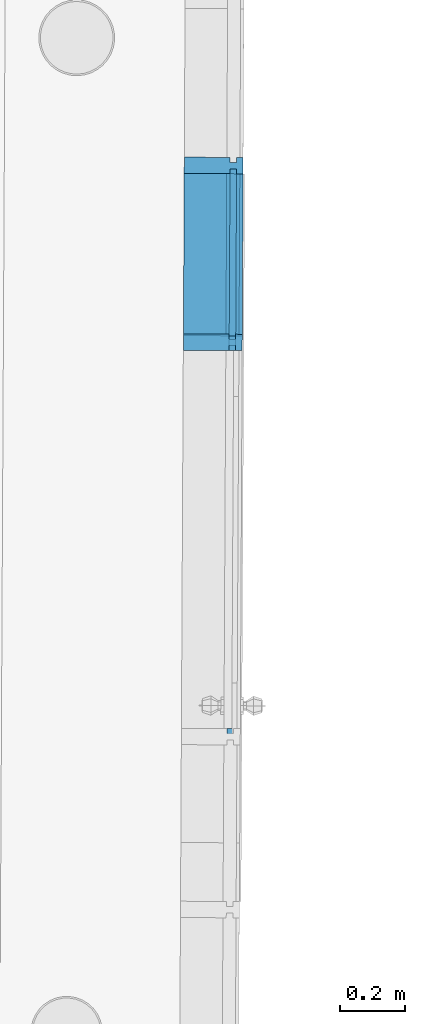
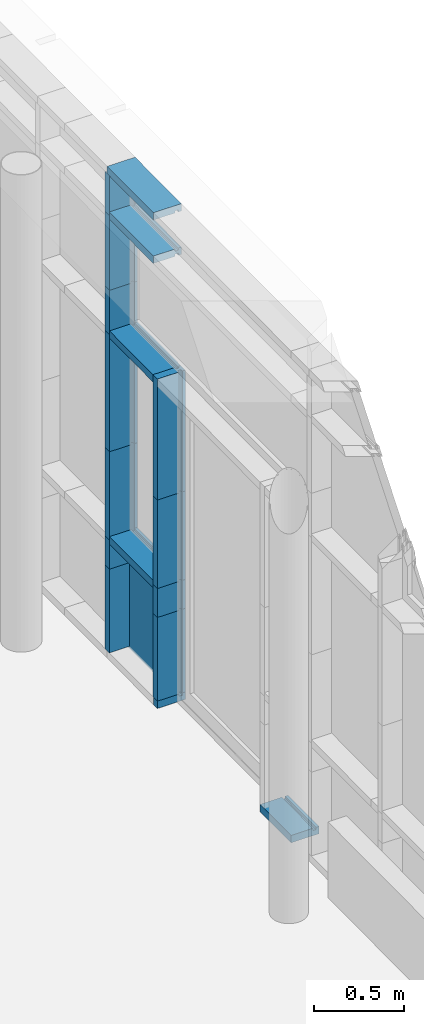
# One storey, part 182 of 196: 18 building element parts, 1 element without a shape of its own.
"""IFC2X3 building model written with IfcOpenShell, lengths in metres."""

from ifc_helpers import new_model, entity, si_unit, converted_unit, derived_unit, money_unit, direction, frame, origin_with_axes, place, context, subcontext, project, spatial, faceted_brep, material, type_object, element, aggregate, save


model = new_model("IFC2X3")

# Units and contexts
model_context = context("Model", 3, precision=1e-05, world=origin_with_axes(), true_north=direction((0.0, 1.0)))
body_context = subcontext(model_context, "Body", "Model", "MODEL_VIEW")
ifc_project = project(units=[si_unit("LENGTHUNIT", "METRE"), si_unit("AREAUNIT", "SQUARE_METRE"), si_unit("VOLUMEUNIT", "CUBIC_METRE"), converted_unit("PLANEANGLEUNIT", "DEGREE", entity("IfcPlaneAngleMeasure", 0.0174532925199), si_unit("PLANEANGLEUNIT", "RADIAN"), dimensions=[0, 0, 0, 0, 0, 0, 0]), money_unit("EUR"), converted_unit("TIMEUNIT", "Year", entity("IfcTimeMeasure", 31556926.0), si_unit("TIMEUNIT", "SECOND"), dimensions=[0, 0, 1, 0, 0, 0, 0]), si_unit("MASSUNIT", "GRAM", prefix="KILO"), si_unit("THERMODYNAMICTEMPERATUREUNIT", "DEGREE_CELSIUS"), si_unit("LUMINOUSINTENSITYUNIT", "LUMEN"), si_unit("ENERGYUNIT", "JOULE", prefix="MEGA"), derived_unit("THERMALCONDUCTANCEUNIT", [(si_unit("POWERUNIT", "WATT"), 1), (si_unit("LENGTHUNIT", "METRE"), -1), (si_unit("THERMODYNAMICTEMPERATUREUNIT", "KELVIN"), -1)]), derived_unit("SPECIFICHEATCAPACITYUNIT", [(si_unit("ENERGYUNIT", "JOULE"), 1), (si_unit("MASSUNIT", "GRAM", prefix="KILO"), -1), (si_unit("THERMODYNAMICTEMPERATUREUNIT", "KELVIN"), -1)]), derived_unit("MASSDENSITYUNIT", [(si_unit("MASSUNIT", "GRAM", prefix="KILO"), 1), (si_unit("VOLUMEUNIT", "CUBIC_METRE"), -1)])], contexts=[model_context])

# Site, building, storey
site_placement = place(None, origin_with_axes())
site = spatial("IfcSite", under=ifc_project, at=site_placement, Name="Gelände", CompositionType="ELEMENT")
building_placement = place(site_placement, origin_with_axes())
building = spatial("IfcBuilding", under=site, at=building_placement, Name="Gebäude", CompositionType="ELEMENT")
storey_placement = place(building_placement, frame((0.0, 0.0, -3.0), z_axis=(0.0, 0.0, 1.0), x_axis=(1.0, 0.0, 0.0)))
storey = spatial("IfcBuildingStorey", under=building, at=storey_placement, Name="KELLERGESCHOSS", CompositionType="ELEMENT", Elevation=-3.0)

# Proxy, building element parts
building_element_proxy_type = type_object("IfcBuildingElementProxyType", Name="Fassadentyp", PredefinedType="NOTDEFINED")
proxy_placement = place(storey_placement, frame((9.16160365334, 37.7476945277, 0.610000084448), z_axis=(0.0, 0.0, 1.0), x_axis=(1.0, 0.0, 0.0)))
proxy = element("IfcBuildingElementProxy", 1, at=proxy_placement, inside=storey, type_object=building_element_proxy_type, Name="Fassade-002")
ifc_material_1 = material(Name="45_Glas, Normalglas")
building_element_part_1_placement = place(proxy_placement, origin_with_axes())
building_element_part_1 = element("IfcBuildingElementPart", 2, at=building_element_part_1_placement, material=ifc_material_1, Name="45_Glas, Normalglas", context=body_context, shape_type="Brep", body=[
    faceted_brep([(0.0011817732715, 4.1785949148, 0.807169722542), (-0.00140585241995, 3.66813206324, 0.807169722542), (0.0385936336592, 3.66792929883, 0.807169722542), (0.0411812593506, 4.17839215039, 0.807169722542), (0.0011817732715, 4.1785949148, 0.619999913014), (0.00118177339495, 4.17859493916, 0.0349998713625), (-0.00140585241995, 3.66813206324, 0.0349998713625), (-0.00145727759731, 3.65798738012, 0.0349998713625), (-0.00145727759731, 3.65798738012, 0.619999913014), (-0.00145727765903, 3.65798736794, 0.807169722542), (0.0385422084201, 3.65778460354, 0.807169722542), (0.0385422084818, 3.65778461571, 0.619999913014), (0.0385422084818, 3.65778461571, 0.0349998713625), (0.0385936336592, 3.66792929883, 0.0349998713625), (0.0411812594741, 4.17839217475, 0.0349998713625), (0.0411812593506, 4.17839215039, 0.619999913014)], [[[0, 1, 2, 3]], [[0, 4, 5, 6, 7, 8, 9, 1]], [[1, 9, 10, 2]], [[3, 2, 10, 11, 12, 13, 14, 15]], [[4, 0, 3, 15]], [[5, 4, 15, 14]], [[6, 5, 14, 13]], [[7, 6, 13, 12]], [[8, 7, 12, 11]], [[9, 8, 11, 10]]]),
])
ifc_material_2 = material(Name="53_Metall, Aluminium")
building_element_part_2_placement = place(proxy_placement, origin_with_axes())
building_element_part_2 = element("IfcBuildingElementPart", 3, at=building_element_part_2_placement, material=ifc_material_2, Name="53_Metall, Aluminium", context=body_context, shape_type="Brep", body=[
    faceted_brep([(0.00859401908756, 3.66808136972, 0.0349998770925), (0.0285937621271, 3.66797998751, 0.0349998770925), (0.0285937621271, 3.66797998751, 0.0499998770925), (0.0485935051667, 3.66787860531, 0.0499998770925), (0.0485935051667, 3.66787860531, -1.22907543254e-07), (-0.131404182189, 3.66879104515, -1.22907543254e-07), (-0.131404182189, 3.66879104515, 0.0499998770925), (0.00859401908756, 3.66808136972, 0.0499998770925), (0.00836517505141, 3.6229371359, 0.0349998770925), (0.028364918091, 3.62283575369, 0.0349998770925), (0.028364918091, 3.62283575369, 0.0499998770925), (0.0483646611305, 3.62273437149, 0.0499998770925), (0.0483646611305, 3.62273437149, -1.22907543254e-07), (-0.131633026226, 3.62364681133, -1.22907543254e-07), (-0.131633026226, 3.62364681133, 0.0499998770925), (0.00836517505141, 3.6229371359, 0.0499998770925)], [[[0, 1, 2, 3, 4, 5, 6, 7]], [[1, 0, 8, 9]], [[10, 2, 1, 9]], [[2, 10, 11, 3]], [[12, 4, 3, 11]], [[13, 5, 4, 12]], [[14, 6, 5, 13]], [[15, 7, 6, 14]], [[0, 7, 15, 8]], [[8, 15, 14, 13, 12, 11, 10, 9]]]),
])
building_element_part_3_placement = place(proxy_placement, origin_with_axes())
building_element_part_3 = element("IfcBuildingElementPart", 4, at=building_element_part_3_placement, material=ifc_material_2, Name="53_Metall, Aluminium", context=body_context, shape_type="Brep", body=[
    faceted_brep([(0.00250735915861, 2.46736142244, 0.0349998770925), (0.0225071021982, 2.46726004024, 0.0349998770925), (0.0225071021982, 2.46726004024, 0.0499998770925), (0.0425068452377, 2.46715865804, 0.0499998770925), (0.0425068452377, 2.46715865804, -1.22907543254e-07), (-0.137490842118, 2.46807109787, -1.22907543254e-07), (-0.137490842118, 2.46807109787, 0.0499998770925), (0.00250735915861, 2.46736142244, 0.0499998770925), (0.000736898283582, 2.11810128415, 0.0349998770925), (0.0207366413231, 2.11799990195, 0.0349998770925), (0.0207366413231, 2.11799990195, 0.0499998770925), (0.0407363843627, 2.11789851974, 0.0499998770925), (0.0407363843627, 2.11789851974, -1.22907543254e-07), (-0.139261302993, 2.11881095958, -1.22907543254e-07), (-0.139261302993, 2.11881095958, 0.0499998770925), (0.000736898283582, 2.11810128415, 0.0499998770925)], [[[0, 1, 2, 3, 4, 5, 6, 7]], [[1, 0, 8, 9]], [[10, 2, 1, 9]], [[2, 10, 11, 3]], [[12, 4, 3, 11]], [[13, 5, 4, 12]], [[14, 6, 5, 13]], [[15, 7, 6, 14]], [[0, 7, 15, 8]], [[8, 15, 14, 13, 12, 11, 10, 9]]]),
])
building_element_part_4_placement = place(proxy_placement, origin_with_axes())
building_element_part_4 = element("IfcBuildingElementPart", 5, at=building_element_part_4_placement, material=ifc_material_2, Name="53_Metall, Aluminium", context=body_context, shape_type="Brep", body=[
    faceted_brep([(0.0085425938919, 3.65793668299, 2.24416310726), (0.00861863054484, 3.67293649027, 2.24416310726), (-0.131379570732, 3.67364616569, 2.24416310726), (-0.131633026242, 3.62364680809, 2.24416310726), (0.00836517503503, 3.62293713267, 2.24416310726), (0.00844121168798, 3.63793693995, 2.24416310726), (0.0284409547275, 3.63783555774, 2.24416310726), (0.0283649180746, 3.62283575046, 2.24416310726), (0.0483646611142, 3.62273436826, 2.24416310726), (0.048618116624, 3.67273372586, 2.24416310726), (0.0286183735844, 3.67283510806, 2.24416310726), (0.0285423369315, 3.65783530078, 2.24416310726), (0.0085425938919, 3.65793668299, 1.41999991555), (0.00861863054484, 3.67293649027, 1.41999991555), (-0.131379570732, 3.67364616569, 1.41999991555), (-0.131633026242, 3.62364680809, 1.41999991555), (0.00836517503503, 3.62293713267, 1.41999991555), (0.00844121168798, 3.63793693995, 1.41999991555), (0.0284409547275, 3.63783555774, 1.41999991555), (0.0283649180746, 3.62283575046, 1.41999991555), (0.0483646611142, 3.62273436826, 1.41999991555), (0.048618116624, 3.67273372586, 1.41999991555), (0.0286183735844, 3.67283510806, 1.41999991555), (0.0285423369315, 3.65783530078, 1.41999991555)], [[[0, 1, 2, 3, 4, 5, 6, 7, 8, 9, 10, 11]], [[1, 0, 12, 13]], [[1, 13, 14, 2]], [[3, 2, 14, 15]], [[4, 3, 15, 16]], [[4, 16, 17, 5]], [[5, 17, 18, 6]], [[7, 6, 18, 19]], [[19, 20, 8, 7]], [[9, 8, 20, 21]], [[22, 10, 9, 21]], [[11, 10, 22, 23]], [[0, 11, 23, 12]], [[23, 22, 21, 20, 19, 18, 17, 16, 15, 14, 13, 12]]]),
])
building_element_part_5_placement = place(proxy_placement, origin_with_axes())
building_element_part_5 = element("IfcBuildingElementPart", 6, at=building_element_part_5_placement, material=ifc_material_2, Name="53_Metall, Aluminium", context=body_context, shape_type="Brep", body=[
    faceted_brep([(0.00854259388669, 3.65793668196, 1.41999990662), (0.00861863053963, 3.67293648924, 1.41999990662), (-0.131379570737, 3.67364616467, 1.41999990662), (-0.131633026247, 3.62364680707, 1.41999990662), (0.00836517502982, 3.62293713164, 1.41999990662), (0.00844121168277, 3.63793693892, 1.41999990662), (0.0284409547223, 3.63783555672, 1.41999990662), (0.0283649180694, 3.62283574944, 1.41999990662), (0.048364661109, 3.62273436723, 1.41999990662), (0.0486181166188, 3.67273372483, 1.41999990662), (0.0286183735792, 3.67283510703, 1.41999990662), (0.0285423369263, 3.65783529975, 1.41999990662), (0.00854259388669, 3.65793668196, 0.817169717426), (0.00861863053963, 3.67293648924, 0.817169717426), (-0.131379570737, 3.67364616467, 0.817169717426), (-0.131633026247, 3.62364680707, 0.817169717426), (0.00836517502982, 3.62293713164, 0.817169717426), (0.00844121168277, 3.63793693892, 0.817169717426), (0.0284409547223, 3.63783555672, 0.817169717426), (0.0283649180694, 3.62283574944, 0.817169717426), (0.048364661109, 3.62273436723, 0.817169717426), (0.0486181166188, 3.67273372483, 0.817169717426), (0.0286183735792, 3.67283510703, 0.817169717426), (0.0285423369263, 3.65783529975, 0.817169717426)], [[[0, 1, 2, 3, 4, 5, 6, 7, 8, 9, 10, 11]], [[1, 0, 12, 13]], [[1, 13, 14, 2]], [[3, 2, 14, 15]], [[4, 3, 15, 16]], [[4, 16, 17, 5]], [[5, 17, 18, 6]], [[7, 6, 18, 19]], [[19, 20, 8, 7]], [[9, 8, 20, 21]], [[22, 10, 9, 21]], [[11, 10, 22, 23]], [[0, 11, 23, 12]], [[23, 22, 21, 20, 19, 18, 17, 16, 15, 14, 13, 12]]]),
])
building_element_part_6_placement = place(proxy_placement, origin_with_axes())
building_element_part_6 = element("IfcBuildingElementPart", 7, at=building_element_part_6_placement, material=ifc_material_2, Name="53_Metall, Aluminium", context=body_context, shape_type="Brep", body=[
    faceted_brep([(0.0085425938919, 3.65793668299, 0.817169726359), (0.00861863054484, 3.67293649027, 0.817169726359), (-0.131379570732, 3.67364616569, 0.817169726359), (-0.131633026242, 3.62364680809, 0.817169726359), (0.00836517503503, 3.62293713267, 0.817169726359), (0.00844121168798, 3.63793693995, 0.817169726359), (0.0284409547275, 3.63783555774, 0.817169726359), (0.0283649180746, 3.62283575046, 0.817169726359), (0.0483646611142, 3.62273436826, 0.817169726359), (0.048618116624, 3.67273372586, 0.817169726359), (0.0286183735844, 3.67283510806, 0.817169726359), (0.0285423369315, 3.65783530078, 0.817169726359), (0.0085425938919, 3.65793668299, 0.619999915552), (0.00861863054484, 3.67293649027, 0.619999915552), (-0.131379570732, 3.67364616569, 0.619999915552), (-0.131633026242, 3.62364680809, 0.619999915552), (0.00836517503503, 3.62293713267, 0.619999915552), (0.00844121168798, 3.63793693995, 0.619999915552), (0.0284409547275, 3.63783555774, 0.619999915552), (0.0283649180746, 3.62283575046, 0.619999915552), (0.0483646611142, 3.62273436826, 0.619999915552), (0.048618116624, 3.67273372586, 0.619999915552), (0.0286183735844, 3.67283510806, 0.619999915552), (0.0285423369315, 3.65783530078, 0.619999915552)], [[[0, 1, 2, 3, 4, 5, 6, 7, 8, 9, 10, 11]], [[1, 0, 12, 13]], [[1, 13, 14, 2]], [[3, 2, 14, 15]], [[4, 3, 15, 16]], [[4, 16, 17, 5]], [[5, 17, 18, 6]], [[7, 6, 18, 19]], [[19, 20, 8, 7]], [[9, 8, 20, 21]], [[22, 10, 9, 21]], [[11, 10, 22, 23]], [[0, 11, 23, 12]], [[23, 22, 21, 20, 19, 18, 17, 16, 15, 14, 13, 12]]]),
])
building_element_part_7_placement = place(proxy_placement, origin_with_axes())
building_element_part_7 = element("IfcBuildingElementPart", 8, at=building_element_part_7_placement, material=ifc_material_2, Name="53_Metall, Aluminium", context=body_context, shape_type="Brep", body=[
    faceted_brep([(0.00854259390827, 3.65793668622, 0.619999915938), (0.00861863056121, 3.6729364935, 0.619999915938), (-0.131379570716, 3.67364616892, 0.619999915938), (-0.131633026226, 3.62364681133, 0.619999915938), (0.00836517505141, 3.6229371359, 0.619999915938), (0.00844121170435, 3.63793694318, 0.619999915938), (0.0284409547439, 3.63783556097, 0.619999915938), (0.028364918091, 3.62283575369, 0.619999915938), (0.0483646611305, 3.62273437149, 0.619999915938), (0.0486181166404, 3.67273372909, 0.619999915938), (0.0286183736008, 3.67283511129, 0.619999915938), (0.0285423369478, 3.65783530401, 0.619999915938), (0.00854259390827, 3.65793668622, 0.0499998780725), (0.00861863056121, 3.6729364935, 0.0499998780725), (-0.131379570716, 3.67364616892, 0.0499998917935), (-0.131633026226, 3.62364681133, 0.0499998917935), (0.00836517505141, 3.6229371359, 0.0499998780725), (0.00844121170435, 3.63793694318, 0.0499998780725), (0.0284409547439, 3.63783556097, 0.0499998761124), (0.028364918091, 3.62283575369, 0.0499998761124), (0.0483646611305, 3.62273437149, 0.0499998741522), (0.0486181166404, 3.67273372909, 0.0499998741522), (0.0286183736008, 3.67283511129, 0.0499998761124), (0.0285423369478, 3.65783530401, 0.0499998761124)], [[[0, 1, 2, 3, 4, 5, 6, 7, 8, 9, 10, 11]], [[1, 0, 12, 13]], [[1, 13, 14, 2]], [[2, 14, 15, 3]], [[4, 3, 15, 16]], [[4, 16, 17, 5]], [[5, 17, 18, 6]], [[7, 6, 18, 19]], [[19, 20, 8, 7]], [[8, 20, 21, 9]], [[22, 10, 9, 21]], [[11, 10, 22, 23]], [[0, 11, 23, 12]], [[23, 22, 21, 20, 19, 18, 17, 16, 15, 14, 13, 12]]]),
])
building_element_part_8_placement = place(proxy_placement, origin_with_axes())
building_element_part_8 = element("IfcBuildingElementPart", 9, at=building_element_part_8_placement, material=ifc_material_2, Name="53_Metall, Aluminium", context=body_context, shape_type="Brep", body=[
    faceted_brep([(0.0112830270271, 4.19854397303, 3.29999996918), (0.0113590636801, 4.21354378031, 3.29999996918), (-0.128639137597, 4.21425345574, 3.29999996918), (-0.128892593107, 4.16425409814, 3.29999996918), (0.0111056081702, 4.16354442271, 3.29999996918), (0.0111816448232, 4.17854422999, 3.29999996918), (0.0311813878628, 4.17844284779, 3.29999996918), (0.0311053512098, 4.16344304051, 3.29999996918), (0.0511050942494, 4.16334165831, 3.29999996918), (0.0513585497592, 4.21334101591, 3.29999996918), (0.0313588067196, 4.21344239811, 3.29999996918), (0.0312827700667, 4.19844259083, 3.29999996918), (0.0112830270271, 4.19854397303, 3.02949642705), (0.0113590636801, 4.21354378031, 3.02949642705), (-0.128639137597, 4.21425345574, 3.02949642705), (-0.128892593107, 4.16425409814, 3.02949642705), (0.0111056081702, 4.16354442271, 3.02949642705), (0.0111816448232, 4.17854422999, 3.02949642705), (0.0311813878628, 4.17844284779, 3.02949642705), (0.0311053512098, 4.16344304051, 3.02949642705), (0.0511050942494, 4.16334165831, 3.02949642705), (0.0513585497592, 4.21334101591, 3.02949642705), (0.0313588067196, 4.21344239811, 3.02949642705), (0.0312827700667, 4.19844259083, 3.02949642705)], [[[0, 1, 2, 3, 4, 5, 6, 7, 8, 9, 10, 11]], [[1, 0, 12, 13]], [[1, 13, 14, 2]], [[3, 2, 14, 15]], [[4, 3, 15, 16]], [[4, 16, 17, 5]], [[5, 17, 18, 6]], [[7, 6, 18, 19]], [[19, 20, 8, 7]], [[9, 8, 20, 21]], [[22, 10, 9, 21]], [[11, 10, 22, 23]], [[0, 11, 23, 12]], [[23, 22, 21, 20, 19, 18, 17, 16, 15, 14, 13, 12]]]),
])
building_element_part_9_placement = place(proxy_placement, origin_with_axes())
building_element_part_9 = element("IfcBuildingElementPart", 10, at=building_element_part_9_placement, material=ifc_material_2, Name="53_Metall, Aluminium", context=body_context, shape_type="Brep", body=[
    faceted_brep([(0.0111056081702, 4.16354442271, 3.01949642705), (0.0111056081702, 4.16354442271, 3.00449642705), (-0.128892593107, 4.16425409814, 3.00449642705), (-0.128892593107, 4.16425409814, 3.05449642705), (0.0111056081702, 4.16354442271, 3.05449642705), (0.0111056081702, 4.16354442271, 3.03949642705), (0.0311053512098, 4.16344304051, 3.03949642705), (0.0311053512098, 4.16344304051, 3.05449642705), (0.0511050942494, 4.16334165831, 3.05449642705), (0.0511050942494, 4.16334165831, 3.00449642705), (0.0311053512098, 4.16344304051, 3.00449642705), (0.0311053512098, 4.16344304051, 3.01949642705), (0.00859401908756, 3.66808136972, 3.01949642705), (0.00859401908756, 3.66808136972, 3.00449642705), (-0.131404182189, 3.66879104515, 3.00449642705), (-0.131404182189, 3.66879104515, 3.05449642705), (0.00859401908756, 3.66808136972, 3.05449642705), (0.00859401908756, 3.66808136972, 3.03949642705), (0.0285937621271, 3.66797998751, 3.03949642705), (0.0285937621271, 3.66797998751, 3.05449642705), (0.0485935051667, 3.66787860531, 3.05449642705), (0.0485935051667, 3.66787860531, 3.00449642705), (0.0285937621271, 3.66797998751, 3.00449642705), (0.0285937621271, 3.66797998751, 3.01949642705)], [[[0, 1, 2, 3, 4, 5, 6, 7, 8, 9, 10, 11]], [[1, 0, 12, 13]], [[1, 13, 14, 2]], [[3, 2, 14, 15]], [[4, 3, 15, 16]], [[4, 16, 17, 5]], [[5, 17, 18, 6]], [[7, 6, 18, 19]], [[19, 20, 8, 7]], [[9, 8, 20, 21]], [[22, 10, 9, 21]], [[11, 10, 22, 23]], [[0, 11, 23, 12]], [[23, 22, 21, 20, 19, 18, 17, 16, 15, 14, 13, 12]]]),
])
building_element_part_10_placement = place(proxy_placement, origin_with_axes())
building_element_part_10 = element("IfcBuildingElementPart", 11, at=building_element_part_10_placement, material=ifc_material_2, Name="53_Metall, Aluminium", context=body_context, shape_type="Brep", body=[
    faceted_brep([(0.0112323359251, 4.18854410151, 3.31499994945), (0.0112323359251, 4.18854410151, 3.29999994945), (-0.128765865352, 4.18925377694, 3.29999994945), (-0.128765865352, 4.18925377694, 3.34999994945), (0.0512318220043, 4.18834133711, 3.34999994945), (0.0512318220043, 4.18834133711, 3.29999994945), (0.0312320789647, 4.18844271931, 3.29999994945), (0.0312320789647, 4.18844271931, 3.31499994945), (0.00859401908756, 3.66808136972, 3.31499994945), (0.00859401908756, 3.66808136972, 3.29999994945), (-0.131404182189, 3.66879104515, 3.29999994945), (-0.131404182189, 3.66879104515, 3.34999994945), (0.0485935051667, 3.66787860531, 3.34999994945), (0.0485935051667, 3.66787860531, 3.29999994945), (0.0285937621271, 3.66797998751, 3.29999994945), (0.0285937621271, 3.66797998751, 3.31499994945)], [[[0, 1, 2, 3, 4, 5, 6, 7]], [[0, 8, 9, 1]], [[9, 10, 2, 1]], [[10, 11, 3, 2]], [[11, 12, 4, 3]], [[12, 13, 5, 4]], [[6, 5, 13, 14]], [[14, 15, 7, 6]], [[7, 15, 8, 0]], [[8, 15, 14, 13, 12, 11, 10, 9]]]),
])
building_element_part_11_placement = place(proxy_placement, origin_with_axes())
building_element_part_11 = element("IfcBuildingElementPart", 12, at=building_element_part_11_placement, material=ifc_material_2, Name="53_Metall, Aluminium", context=body_context, shape_type="Brep", body=[
    faceted_brep([(0.0112830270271, 4.19854397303, 3.02949640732), (0.0113590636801, 4.21354378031, 3.02949640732), (-0.128639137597, 4.21425345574, 3.02949640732), (-0.128892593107, 4.16425409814, 3.02949640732), (0.0111056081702, 4.16354442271, 3.02949640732), (0.0111816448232, 4.17854422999, 3.02949640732), (0.0311813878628, 4.17844284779, 3.02949640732), (0.0311053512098, 4.16344304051, 3.02949640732), (0.0511050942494, 4.16334165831, 3.02949640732), (0.0513585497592, 4.21334101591, 3.02949640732), (0.0313588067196, 4.21344239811, 3.02949640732), (0.0312827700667, 4.19844259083, 3.02949640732), (0.0112830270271, 4.19854397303, 2.51999991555), (0.0113590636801, 4.21354378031, 2.51999991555), (-0.128639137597, 4.21425345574, 2.51999991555), (-0.128892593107, 4.16425409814, 2.51999991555), (0.0111056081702, 4.16354442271, 2.51999991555), (0.0111816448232, 4.17854422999, 2.51999991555), (0.0311813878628, 4.17844284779, 2.51999991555), (0.0311053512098, 4.16344304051, 2.51999991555), (0.0511050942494, 4.16334165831, 2.51999991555), (0.0513585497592, 4.21334101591, 2.51999991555), (0.0313588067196, 4.21344239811, 2.51999991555), (0.0312827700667, 4.19844259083, 2.51999991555)], [[[0, 1, 2, 3, 4, 5, 6, 7, 8, 9, 10, 11]], [[1, 0, 12, 13]], [[1, 13, 14, 2]], [[3, 2, 14, 15]], [[4, 3, 15, 16]], [[4, 16, 17, 5]], [[5, 17, 18, 6]], [[7, 6, 18, 19]], [[19, 20, 8, 7]], [[9, 8, 20, 21]], [[22, 10, 9, 21]], [[11, 10, 22, 23]], [[0, 11, 23, 12]], [[23, 22, 21, 20, 19, 18, 17, 16, 15, 14, 13, 12]]]),
])
building_element_part_12_placement = place(proxy_placement, origin_with_axes())
building_element_part_12 = element("IfcBuildingElementPart", 13, at=building_element_part_12_placement, material=ifc_material_2, Name="53_Metall, Aluminium", context=body_context, shape_type="Brep", body=[
    faceted_brep([(0.0112830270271, 4.19854397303, 2.51999992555), (0.0113590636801, 4.21354378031, 2.51999992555), (-0.128639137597, 4.21425345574, 2.51999992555), (-0.128892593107, 4.16425409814, 2.51999992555), (0.0111056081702, 4.16354442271, 2.51999992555), (0.0111816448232, 4.17854422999, 2.51999992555), (0.0311813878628, 4.17844284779, 2.51999992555), (0.0311053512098, 4.16344304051, 2.51999992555), (0.0511050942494, 4.16334165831, 2.51999992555), (0.0513585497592, 4.21334101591, 2.51999992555), (0.0313588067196, 4.21344239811, 2.51999992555), (0.0312827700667, 4.19844259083, 2.51999992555), (0.0112830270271, 4.19854397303, 2.21916310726), (0.0113590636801, 4.21354378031, 2.21916310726), (-0.128639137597, 4.21425345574, 2.21916310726), (-0.128892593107, 4.16425409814, 2.21916310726), (0.0111056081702, 4.16354442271, 2.21916310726), (0.0111816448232, 4.17854422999, 2.21916310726), (0.0311813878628, 4.17844284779, 2.21916310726), (0.0311053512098, 4.16344304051, 2.21916310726), (0.0511050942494, 4.16334165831, 2.21916310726), (0.0513585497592, 4.21334101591, 2.21916310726), (0.0313588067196, 4.21344239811, 2.21916310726), (0.0312827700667, 4.19844259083, 2.21916310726)], [[[0, 1, 2, 3, 4, 5, 6, 7, 8, 9, 10, 11]], [[1, 0, 12, 13]], [[1, 13, 14, 2]], [[3, 2, 14, 15]], [[4, 3, 15, 16]], [[4, 16, 17, 5]], [[5, 17, 18, 6]], [[7, 6, 18, 19]], [[19, 20, 8, 7]], [[9, 8, 20, 21]], [[22, 10, 9, 21]], [[11, 10, 22, 23]], [[0, 11, 23, 12]], [[23, 22, 21, 20, 19, 18, 17, 16, 15, 14, 13, 12]]]),
])
building_element_part_13_placement = place(proxy_placement, origin_with_axes())
building_element_part_13 = element("IfcBuildingElementPart", 14, at=building_element_part_13_placement, material=ifc_material_2, Name="53_Metall, Aluminium", context=body_context, shape_type="Brep", body=[
    faceted_brep([(0.0111056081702, 4.16354442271, 2.20916310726), (0.0111056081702, 4.16354442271, 2.19416310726), (-0.128892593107, 4.16425409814, 2.19416310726), (-0.128892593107, 4.16425409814, 2.24416310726), (0.0111056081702, 4.16354442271, 2.24416310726), (0.0111056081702, 4.16354442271, 2.22916310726), (0.0311053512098, 4.16344304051, 2.22916310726), (0.0311053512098, 4.16344304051, 2.24416310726), (0.0511050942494, 4.16334165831, 2.24416310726), (0.0511050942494, 4.16334165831, 2.19416310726), (0.0311053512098, 4.16344304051, 2.19416310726), (0.0311053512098, 4.16344304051, 2.20916310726), (0.00859401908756, 3.66808136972, 2.20916310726), (0.00859401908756, 3.66808136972, 2.19416310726), (-0.131404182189, 3.66879104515, 2.19416310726), (-0.131404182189, 3.66879104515, 2.24416310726), (0.00859401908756, 3.66808136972, 2.24416310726), (0.00859401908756, 3.66808136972, 2.22916310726), (0.0285937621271, 3.66797998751, 2.22916310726), (0.0285937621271, 3.66797998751, 2.24416310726), (0.0485935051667, 3.66787860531, 2.24416310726), (0.0485935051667, 3.66787860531, 2.19416310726), (0.0285937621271, 3.66797998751, 2.19416310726), (0.0285937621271, 3.66797998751, 2.20916310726)], [[[0, 1, 2, 3, 4, 5, 6, 7, 8, 9, 10, 11]], [[1, 0, 12, 13]], [[1, 13, 14, 2]], [[3, 2, 14, 15]], [[4, 3, 15, 16]], [[4, 16, 17, 5]], [[5, 17, 18, 6]], [[7, 6, 18, 19]], [[19, 20, 8, 7]], [[9, 8, 20, 21]], [[22, 10, 9, 21]], [[11, 10, 22, 23]], [[0, 11, 23, 12]], [[23, 22, 21, 20, 19, 18, 17, 16, 15, 14, 13, 12]]]),
])
building_element_part_14_placement = place(proxy_placement, origin_with_axes())
building_element_part_14 = element("IfcBuildingElementPart", 15, at=building_element_part_14_placement, material=ifc_material_2, Name="53_Metall, Aluminium", context=body_context, shape_type="Brep", body=[
    faceted_brep([(0.011283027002, 4.19854396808, 2.21916309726), (0.011359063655, 4.21354377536, 2.21916309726), (-0.128639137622, 4.21425345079, 2.21916309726), (-0.128892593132, 4.16425409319, 2.21916309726), (0.0111056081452, 4.16354441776, 2.21916309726), (0.0111816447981, 4.17854422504, 2.21916309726), (0.0311813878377, 4.17844284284, 2.21916309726), (0.0311053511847, 4.16344303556, 2.21916309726), (0.0511050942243, 4.16334165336, 2.21916309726), (0.0513585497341, 4.21334101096, 2.21916309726), (0.0313588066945, 4.21344239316, 2.21916309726), (0.0312827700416, 4.19844258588, 2.21916309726), (0.011283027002, 4.19854396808, 1.41999991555), (0.011359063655, 4.21354377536, 1.41999991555), (-0.128639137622, 4.21425345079, 1.41999991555), (-0.128892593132, 4.16425409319, 1.41999991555), (0.0111056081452, 4.16354441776, 1.41999991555), (0.0111816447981, 4.17854422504, 1.41999991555), (0.0311813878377, 4.17844284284, 1.41999991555), (0.0311053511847, 4.16344303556, 1.41999991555), (0.0511050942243, 4.16334165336, 1.41999991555), (0.0513585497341, 4.21334101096, 1.41999991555), (0.0313588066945, 4.21344239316, 1.41999991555), (0.0312827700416, 4.19844258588, 1.41999991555)], [[[0, 1, 2, 3, 4, 5, 6, 7, 8, 9, 10, 11]], [[1, 0, 12, 13]], [[1, 13, 14, 2]], [[3, 2, 14, 15]], [[4, 3, 15, 16]], [[4, 16, 17, 5]], [[5, 17, 18, 6]], [[7, 6, 18, 19]], [[19, 20, 8, 7]], [[9, 8, 20, 21]], [[22, 10, 9, 21]], [[11, 10, 22, 23]], [[0, 11, 23, 12]], [[23, 22, 21, 20, 19, 18, 17, 16, 15, 14, 13, 12]]]),
])
building_element_part_15_placement = place(proxy_placement, origin_with_axes())
building_element_part_15 = element("IfcBuildingElementPart", 16, at=building_element_part_15_placement, material=ifc_material_2, Name="53_Metall, Aluminium", context=body_context, shape_type="Brep", body=[
    faceted_brep([(0.0112830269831, 4.19854396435, 1.41999990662), (0.011359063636, 4.21354377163, 1.41999990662), (-0.128639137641, 4.21425344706, 1.41999990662), (-0.128892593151, 4.16425408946, 1.41999990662), (0.0111056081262, 4.16354441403, 1.41999990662), (0.0111816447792, 4.17854422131, 1.41999990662), (0.0311813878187, 4.17844283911, 1.41999990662), (0.0311053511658, 4.16344303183, 1.41999990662), (0.0511050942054, 4.16334164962, 1.41999990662), (0.0513585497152, 4.21334100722, 1.41999990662), (0.0313588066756, 4.21344238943, 1.41999990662), (0.0312827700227, 4.19844258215, 1.41999990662), (0.0112830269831, 4.19854396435, 0.817169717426), (0.011359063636, 4.21354377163, 0.817169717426), (-0.128639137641, 4.21425344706, 0.817169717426), (-0.128892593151, 4.16425408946, 0.817169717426), (0.0111056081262, 4.16354441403, 0.817169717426), (0.0111816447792, 4.17854422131, 0.817169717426), (0.0311813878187, 4.17844283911, 0.817169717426), (0.0311053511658, 4.16344303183, 0.817169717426), (0.0511050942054, 4.16334164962, 0.817169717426), (0.0513585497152, 4.21334100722, 0.817169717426), (0.0313588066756, 4.21344238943, 0.817169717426), (0.0312827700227, 4.19844258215, 0.817169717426)], [[[0, 1, 2, 3, 4, 5, 6, 7, 8, 9, 10, 11]], [[1, 0, 12, 13]], [[1, 13, 14, 2]], [[3, 2, 14, 15]], [[4, 3, 15, 16]], [[4, 16, 17, 5]], [[5, 17, 18, 6]], [[7, 6, 18, 19]], [[19, 20, 8, 7]], [[9, 8, 20, 21]], [[22, 10, 9, 21]], [[11, 10, 22, 23]], [[0, 11, 23, 12]], [[23, 22, 21, 20, 19, 18, 17, 16, 15, 14, 13, 12]]]),
])
building_element_part_16_placement = place(proxy_placement, origin_with_axes())
building_element_part_16 = element("IfcBuildingElementPart", 17, at=building_element_part_16_placement, material=ifc_material_2, Name="53_Metall, Aluminium", context=body_context, shape_type="Brep", body=[
    faceted_brep([(0.0111056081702, 4.16354442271, 0.807169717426), (0.0111056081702, 4.16354442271, 0.792169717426), (-0.128892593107, 4.16425409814, 0.792169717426), (-0.128892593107, 4.16425409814, 0.842169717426), (0.0111056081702, 4.16354442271, 0.842169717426), (0.0111056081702, 4.16354442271, 0.827169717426), (0.0311053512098, 4.16344304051, 0.827169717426), (0.0311053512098, 4.16344304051, 0.842169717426), (0.0511050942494, 4.16334165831, 0.842169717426), (0.0511050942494, 4.16334165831, 0.792169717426), (0.0311053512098, 4.16344304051, 0.792169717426), (0.0311053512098, 4.16344304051, 0.807169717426), (0.00859401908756, 3.66808136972, 0.807169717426), (0.00859401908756, 3.66808136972, 0.792169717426), (-0.131404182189, 3.66879104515, 0.792169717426), (-0.131404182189, 3.66879104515, 0.842169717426), (0.00859401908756, 3.66808136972, 0.842169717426), (0.00859401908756, 3.66808136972, 0.827169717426), (0.0285937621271, 3.66797998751, 0.827169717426), (0.0285937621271, 3.66797998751, 0.842169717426), (0.0485935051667, 3.66787860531, 0.842169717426), (0.0485935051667, 3.66787860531, 0.792169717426), (0.0285937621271, 3.66797998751, 0.792169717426), (0.0285937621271, 3.66797998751, 0.807169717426)], [[[0, 1, 2, 3, 4, 5, 6, 7, 8, 9, 10, 11]], [[1, 0, 12, 13]], [[1, 13, 14, 2]], [[3, 2, 14, 15]], [[4, 3, 15, 16]], [[4, 16, 17, 5]], [[5, 17, 18, 6]], [[7, 6, 18, 19]], [[19, 20, 8, 7]], [[9, 8, 20, 21]], [[22, 10, 9, 21]], [[11, 10, 22, 23]], [[0, 11, 23, 12]], [[23, 22, 21, 20, 19, 18, 17, 16, 15, 14, 13, 12]]]),
])
building_element_part_17_placement = place(proxy_placement, origin_with_axes())
building_element_part_17 = element("IfcBuildingElementPart", 18, at=building_element_part_17_placement, material=ifc_material_2, Name="53_Metall, Aluminium", context=body_context, shape_type="Brep", body=[
    faceted_brep([(0.0112830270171, 4.19854397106, 0.817169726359), (0.0113590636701, 4.21354377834, 0.817169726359), (-0.128639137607, 4.21425345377, 0.817169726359), (-0.128892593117, 4.16425409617, 0.817169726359), (0.0111056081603, 4.16354442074, 0.817169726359), (0.0111816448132, 4.17854422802, 0.817169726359), (0.0311813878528, 4.17844284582, 0.817169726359), (0.0311053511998, 4.16344303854, 0.817169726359), (0.0511050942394, 4.16334165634, 0.817169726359), (0.0513585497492, 4.21334101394, 0.817169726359), (0.0313588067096, 4.21344239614, 0.817169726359), (0.0312827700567, 4.19844258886, 0.817169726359), (0.0112830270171, 4.19854397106, 0.619999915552), (0.0113590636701, 4.21354377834, 0.619999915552), (-0.128639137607, 4.21425345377, 0.619999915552), (-0.128892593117, 4.16425409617, 0.619999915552), (0.0111056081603, 4.16354442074, 0.619999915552), (0.0111816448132, 4.17854422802, 0.619999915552), (0.0311813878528, 4.17844284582, 0.619999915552), (0.0311053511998, 4.16344303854, 0.619999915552), (0.0511050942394, 4.16334165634, 0.619999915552), (0.0513585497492, 4.21334101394, 0.619999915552), (0.0313588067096, 4.21344239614, 0.619999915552), (0.0312827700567, 4.19844258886, 0.619999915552)], [[[0, 1, 2, 3, 4, 5, 6, 7, 8, 9, 10, 11]], [[1, 0, 12, 13]], [[1, 13, 14, 2]], [[3, 2, 14, 15]], [[4, 3, 15, 16]], [[4, 16, 17, 5]], [[5, 17, 18, 6]], [[7, 6, 18, 19]], [[19, 20, 8, 7]], [[9, 8, 20, 21]], [[22, 10, 9, 21]], [[11, 10, 22, 23]], [[0, 11, 23, 12]], [[23, 22, 21, 20, 19, 18, 17, 16, 15, 14, 13, 12]]]),
])
building_element_part_18_placement = place(proxy_placement, origin_with_axes())
building_element_part_18 = element("IfcBuildingElementPart", 19, at=building_element_part_18_placement, material=ifc_material_2, Name="53_Metall, Aluminium", context=body_context, shape_type="Brep", body=[
    faceted_brep([(0.0112830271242, 4.19854399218, 0.619999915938), (0.0113590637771, 4.21354379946, 0.619999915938), (-0.1286391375, 4.21425347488, 0.619999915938), (-0.12889259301, 4.16425411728, 0.619999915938), (0.0111056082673, 4.16354444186, 0.619999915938), (0.0111816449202, 4.17854424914, 0.619999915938), (0.0311813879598, 4.17844286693, 0.619999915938), (0.0311053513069, 4.16344305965, 0.619999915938), (0.0511050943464, 4.16334167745, 0.619999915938), (0.0513585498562, 4.21334103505, 0.619999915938), (0.0313588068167, 4.21344241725, 0.619999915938), (0.0312827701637, 4.19844260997, 0.619999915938), (0.0112830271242, 4.19854399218, 0.0499998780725), (0.0113590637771, 4.21354379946, 0.0499998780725), (-0.1286391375, 4.21425347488, 0.0499998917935), (-0.12889259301, 4.16425411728, 0.0499998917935), (0.0111056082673, 4.16354444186, 0.0499998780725), (0.0111816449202, 4.17854424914, 0.0499998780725), (0.0311813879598, 4.17844286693, 0.0499998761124), (0.0311053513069, 4.16344305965, 0.0499998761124), (0.0511050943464, 4.16334167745, 0.0499998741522), (0.0513585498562, 4.21334103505, 0.0499998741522), (0.0313588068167, 4.21344241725, 0.0499998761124), (0.0312827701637, 4.19844260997, 0.0499998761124)], [[[0, 1, 2, 3, 4, 5, 6, 7, 8, 9, 10, 11]], [[1, 0, 12, 13]], [[1, 13, 14, 2]], [[2, 14, 15, 3]], [[4, 3, 15, 16]], [[4, 16, 17, 5]], [[5, 17, 18, 6]], [[7, 6, 18, 19]], [[19, 20, 8, 7]], [[8, 20, 21, 9]], [[22, 10, 9, 21]], [[11, 10, 22, 23]], [[0, 11, 23, 12]], [[23, 22, 21, 20, 19, 18, 17, 16, 15, 14, 13, 12]]]),
])
aggregate(proxy, [building_element_part_1, building_element_part_2, building_element_part_3, building_element_part_4, building_element_part_5, building_element_part_6, building_element_part_7, building_element_part_8, building_element_part_9, building_element_part_10, building_element_part_11, building_element_part_12, building_element_part_13, building_element_part_14, building_element_part_15, building_element_part_16, building_element_part_17, building_element_part_18])

save(model, "model.ifc")
